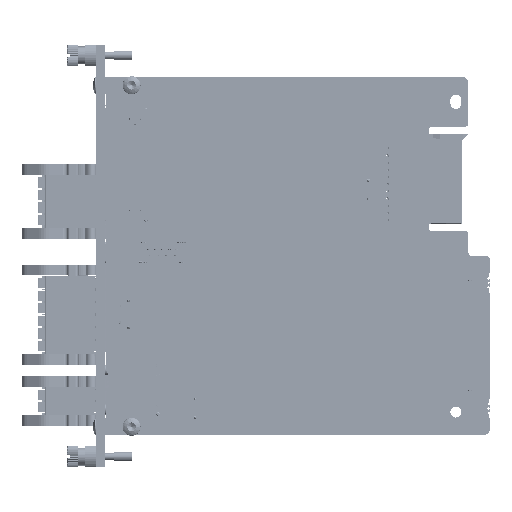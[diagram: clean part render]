
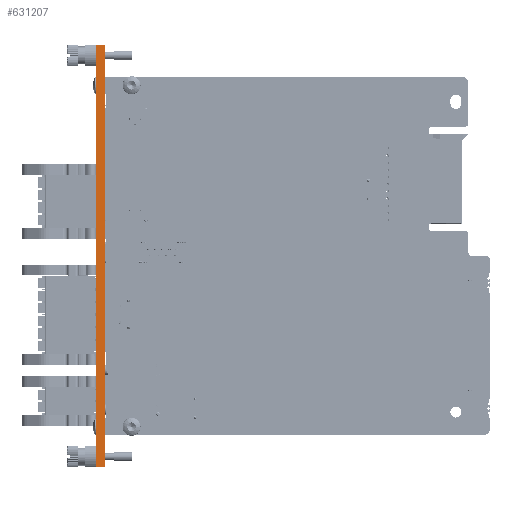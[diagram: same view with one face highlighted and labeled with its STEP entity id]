
A CAD part, left-side view. The second image highlights one B-rep face of the part: STEP entity #631207.
In plain terms, the highlighted planar face has unit normal (-1, 0, 0).
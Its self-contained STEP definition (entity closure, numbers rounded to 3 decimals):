
#35533=FACE_OUTER_BOUND('',#66941,.T.);
#66941=EDGE_LOOP('',(#420543,#420544,#420545,#420546));
#96763=LINE('',#879560,#168392);
#105883=LINE('',#917086,#177512);
#106964=LINE('',#923585,#178593);
#106966=LINE('',#923589,#178595);
#168392=VECTOR('',#709493,10.);
#177512=VECTOR('',#730719,10.);
#178593=VECTOR('',#733712,10.);
#178595=VECTOR('',#733718,10.);
#239565=VERTEX_POINT('',#879557);
#239566=VERTEX_POINT('',#879559);
#247628=VERTEX_POINT('',#917083);
#247629=VERTEX_POINT('',#917085);
#300126=EDGE_CURVE('',#239565,#239566,#96763,.T.);
#312008=EDGE_CURVE('',#247628,#247629,#105883,.T.);
#313920=EDGE_CURVE('',#247629,#239565,#106964,.T.);
#313922=EDGE_CURVE('',#247628,#239566,#106966,.T.);
#420543=ORIENTED_EDGE('',*,*,#312008,.F.);
#420544=ORIENTED_EDGE('',*,*,#313922,.T.);
#420545=ORIENTED_EDGE('',*,*,#300126,.F.);
#420546=ORIENTED_EDGE('',*,*,#313920,.F.);
#575537=PLANE('',#665208);
#631207=ADVANCED_FACE('',(#35533),#575537,.T.);
#665208=AXIS2_PLACEMENT_3D('',#923644,#733798,#733799);
#709493=DIRECTION('',(0.,0.,1.));
#730719=DIRECTION('',(0.,0.,-1.));
#733712=DIRECTION('',(0.,1.,0.));
#733718=DIRECTION('',(0.,1.,0.));
#733798=DIRECTION('center_axis',(-1.,0.,0.));
#733799=DIRECTION('ref_axis',(0.,0.,
1.));
#879557=CARTESIAN_POINT('',(-45.451,-38.15,-74.192));
#879559=CARTESIAN_POINT('',(-45.451,-38.15,43.658));
#879560=CARTESIAN_POINT('',(-45.451,-38.15,43.658));
#917083=CARTESIAN_POINT('',(-45.451,-40.65,43.658));
#917085=CARTESIAN_POINT('',(-45.451,-40.65,-74.192));
#917086=CARTESIAN_POINT('',(-45.451,-40.65,43.658));
#923585=CARTESIAN_POINT('',(-45.451,-40.65,-74.192));
#923589=CARTESIAN_POINT('',(-45.451,-40.65,43.658));
#923644=CARTESIAN_POINT('Origin',(-45.451,-40.65,-74.192));
